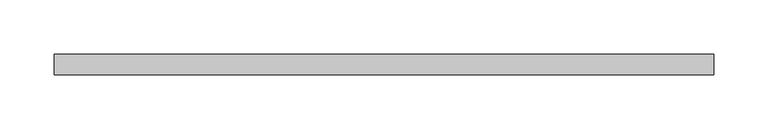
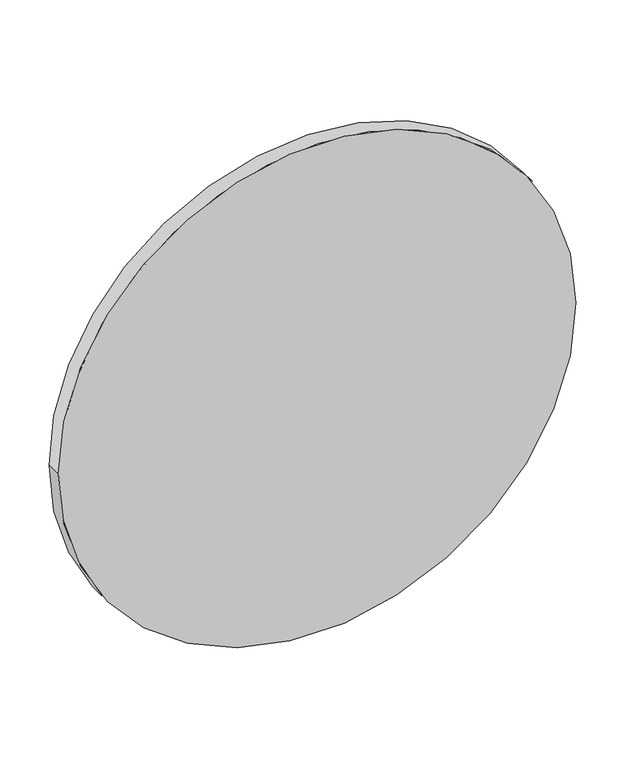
"""IFC4 building model written with IfcOpenShell, lengths in millimetres: proxy geometry, FOUNDATION^TABLE 1_ROUND-SUB TOP."""

import ifcopenshell
import ifcopenshell.guid

model = None  # the IFC model being written
_history = None  # IfcOwnerHistory: only IFC2X3 demands one
_inside = {}  # id of a spatial element -> (the spatial element, [elements in it])
_under = {}  # id of a project, library or spatial element -> (it, [spatial elements below it])
_declared = {}  # id of a project -> (the project, [libraries it declares])
_typed = {}  # id of a type object -> (the type object, [elements of that type])
_made_of = {}  # id of a material, layer set ... -> (it, [elements and type objects made of it])


def new_model(schema):
    """Start an empty IFC model of exactly this schema.

    Asked for "IFC4X3", IfcOpenShell would pick the latest addendum, in which some entities
    have other attributes; the version numbers below select the first issue.
    IFC2X3 requires an IfcOwnerHistory on every rooted entity: one is made here for all.
    """
    global model, _history
    if schema == "IFC4X3":
        model = ifcopenshell.file(schema_version=(4, 3, 0, 0))
    else:
        model = ifcopenshell.file(schema=schema)
    _inside.clear()
    _under.clear()
    _declared.clear()
    _typed.clear()
    _made_of.clear()
    _history = None
    if model.schema == "IFC2X3":
        org = make("IfcOrganization", Name="unknown")
        user = make(
            "IfcPersonAndOrganization",
            ThePerson=make("IfcPerson", FamilyName="unknown"),
            TheOrganization=org,
        )
        app = make(
            "IfcApplication",
            ApplicationDeveloper=org,
            Version="unknown",
            ApplicationFullName="unknown",
            ApplicationIdentifier="unknown",
        )
        _history = make(
            "IfcOwnerHistory",
            OwningUser=user,
            OwningApplication=app,
            ChangeAction="ADDED",
            CreationDate=0,
        )
    return model


def make(cls, **values):
    """One entity of the class cls with the attributes given. An attribute that is None is left unset."""
    return model.create_entity(
        cls, **{name: value for name, value in values.items() if value is not None}
    )


def rooted(cls, **values):
    """An entity with a GlobalId (a new one), such as an element, a storey or a relation."""
    return make(cls, GlobalId=ifcopenshell.guid.new(), OwnerHistory=_history, **values)


def si_unit(unit_type, name, prefix=None):
    """IfcSIUnit, for example si_unit("LENGTHUNIT", "METRE", prefix="MILLI")."""
    return make("IfcSIUnit", UnitType=unit_type, Prefix=prefix, Name=name)


def assignment(units):
    """IfcUnitAssignment: the units of a project."""
    return None if units is None else make("IfcUnitAssignment", Units=units)


def point(xyz):
    """IfcCartesianPoint."""
    return None if xyz is None else make("IfcCartesianPoint", Coordinates=xyz)


def direction(xyz):
    """IfcDirection."""
    return None if xyz is None else make("IfcDirection", DirectionRatios=xyz)


def frame(location, z_axis=None, x_axis=None):
    """IfcAxis2Placement3D, a coordinate frame: its origin and axes. An axis left out is left unset."""
    return make(
        "IfcAxis2Placement3D",
        Location=point(location),
        Axis=direction(z_axis),
        RefDirection=direction(x_axis),
    )


def frame_2d(location, x_axis=None):
    """IfcAxis2Placement2D, a coordinate frame in the plane: its origin and x axis."""
    return make(
        "IfcAxis2Placement2D", Location=point(location), RefDirection=direction(x_axis)
    )


def origin():
    """The frame at (0, 0, 0) with its axes left unset."""
    return frame((0.0, 0.0, 0.0))


def origin_2d():
    """The frame at (0, 0) in the plane with its x axis left unset."""
    return frame_2d((0.0, 0.0))


def place(relative_to, where):
    """IfcLocalPlacement: puts the frame where relative to a parent placement (None: the world)."""
    return make(
        "IfcLocalPlacement", PlacementRelTo=relative_to, RelativePlacement=where
    )


def context(
    kind, dimensions, precision=None, world=None, true_north=None, identifier=None
):
    """IfcGeometricRepresentationContext, for example the 3D "Model" context."""
    return make(
        "IfcGeometricRepresentationContext",
        ContextIdentifier=identifier,
        ContextType=kind,
        CoordinateSpaceDimension=dimensions,
        Precision=precision,
        WorldCoordinateSystem=world,
        TrueNorth=true_north,
    )


def project(units=None, contexts=None):
    """IfcProject with its units and contexts."""
    return rooted(
        "IfcProject",
        Name="project",
        RepresentationContexts=contexts,
        UnitsInContext=assignment(units),
    )


def spatial(cls, under=None, at=None, **own):
    """A site, building, storey or space (cls), placed at a placement, below another one or the project."""
    s = rooted(cls, ObjectPlacement=at, **own)
    if under is not None:
        _under.setdefault(under.id(), (under, []))[1].append(s)
    return s


def circle_curve(where, radius):
    """IfcCircle in the frame where."""
    return make("IfcCircle", Position=where, Radius=radius)


def trimmed(basis, trim1, trim2, sense, master):
    """IfcTrimmedCurve: the piece of a basis curve between two trims."""
    return make(
        "IfcTrimmedCurve",
        BasisCurve=basis,
        Trim1=trim1,
        Trim2=trim2,
        SenseAgreement=sense,
        MasterRepresentation=master,
    )


def segment(curve, same_sense, transition):
    """IfcCompositeCurveSegment."""
    return make(
        "IfcCompositeCurveSegment",
        Transition=transition,
        SameSense=same_sense,
        ParentCurve=curve,
    )


def composite_curve(segments, self_intersect=None):
    """IfcCompositeCurve: segments joined end to end."""
    return make("IfcCompositeCurve", Segments=segments, SelfIntersect=self_intersect)


def outline(outer, holes=None, kind="AREA"):
    """IfcArbitraryClosedProfileDef: a profile drawn as a closed curve; with holes, ...WithVoids."""
    if holes is None:
        return make("IfcArbitraryClosedProfileDef", ProfileType=kind, OuterCurve=outer)
    return make(
        "IfcArbitraryProfileDefWithVoids",
        ProfileType=kind,
        OuterCurve=outer,
        InnerCurves=holes,
    )


def extrude(swept, where, along, depth):
    """IfcExtrudedAreaSolid: the profile swept, set in the frame where, extruded along a direction by depth."""
    return make(
        "IfcExtrudedAreaSolid",
        SweptArea=swept,
        Position=where,
        ExtrudedDirection=direction(along),
        Depth=depth,
    )


def shape(context_of_items, identifier, shape_type, items):
    """IfcShapeRepresentation: the items that make up one representation, for example the "Body"."""
    return make(
        "IfcShapeRepresentation",
        ContextOfItems=context_of_items,
        RepresentationIdentifier=identifier,
        RepresentationType=shape_type,
        Items=items,
    )


def source(mapping_origin, context_of_items, identifier, shape_type, items):
    """IfcRepresentationMap: a shape defined once, which mapped items show again and again."""
    return make(
        "IfcRepresentationMap",
        MappingOrigin=mapping_origin,
        MappedRepresentation=shape(context_of_items, identifier, shape_type, items),
    )


def transform(
    local_origin,
    x_axis=None,
    y_axis=None,
    z_axis=None,
    scale=None,
    scale2=None,
    scale3=None,
    uniform=True,
):
    """IfcCartesianTransformationOperator3D, or its non-uniform kind. x_axis, y_axis, z_axis: its Axis1, 2, 3."""
    if uniform:
        return make(
            "IfcCartesianTransformationOperator3D",
            Axis1=direction(x_axis),
            Axis2=direction(y_axis),
            LocalOrigin=point(local_origin),
            Scale=scale,
            Axis3=direction(z_axis),
        )
    return make(
        "IfcCartesianTransformationOperator3DnonUniform",
        Axis1=direction(x_axis),
        Axis2=direction(y_axis),
        LocalOrigin=point(local_origin),
        Scale=scale,
        Axis3=direction(z_axis),
        Scale2=scale2,
        Scale3=scale3,
    )


def mapped(mapping_source, mapping_target):
    """IfcMappedItem: shows the shape of a source again, moved by a transform."""
    return make(
        "IfcMappedItem", MappingSource=mapping_source, MappingTarget=mapping_target
    )


def made_of(thing, what):
    """Note that an element or type object is made of a material, layer set ...; save() writes the relation."""
    if what is not None:
        _made_of.setdefault(what.id(), (what, []))[1].append(thing)
    return thing


def element(
    cls,
    number,
    at=None,
    inside=None,
    cuts=None,
    type_object=None,
    material=None,
    context=None,
    identifier="Body",
    shape_type=None,
    held_by="IfcProductDefinitionShape",
    body=None,
    shapes=None,
    **own,
):
    """One element of the class cls, such as IfcWall. Its Tag is "e" and its number.

    at: its placement. inside: the storey or other place that contains it. cuts: it is an
    opening in that element (IfcRelVoidsElement). A single representation is given by context,
    identifier, shape_type and body (its items); several are given by shapes. held_by: the class
    of the entity that holds the representations. save() writes the other relations.
    """
    e = rooted(cls, Tag="e%d" % number, ObjectPlacement=at, **own)
    if body is not None:
        shapes = [shape(context, identifier, shape_type, body)]
    if shapes is not None:
        e.Representation = make(held_by, Representations=shapes)
    if inside is not None:
        _inside.setdefault(inside.id(), (inside, []))[1].append(e)
    if cuts is not None:
        rooted(
            "IfcRelVoidsElement", RelatingBuildingElement=cuts, RelatedOpeningElement=e
        )
    if type_object is not None:
        _typed.setdefault(type_object.id(), (type_object, []))[1].append(e)
    return made_of(e, material)


def aggregate(whole, parts):
    """IfcRelAggregates: a whole, such as a stair, and the parts it consists of."""
    return rooted("IfcRelAggregates", RelatingObject=whole, RelatedObjects=parts)


def save(model, path):
    """Write the relations noted so far, then the file.

    IfcRelAggregates (storeys below a building ...), IfcRelContainedInSpatialStructure (elements
    in a storey), IfcRelDefinesByType, IfcRelAssociatesMaterial and IfcRelDeclares: one each for
    every whole, place, type object, material and project.
    """
    for whole, parts in _under.values():
        aggregate(whole, parts)
    for where, things in _inside.values():
        rooted(
            "IfcRelContainedInSpatialStructure",
            RelatedElements=things,
            RelatingStructure=where,
        )
    for kind, things in _typed.values():
        rooted("IfcRelDefinesByType", RelatedObjects=things, RelatingType=kind)
    for what, things in _made_of.values():
        rooted("IfcRelAssociatesMaterial", RelatedObjects=things, RelatingMaterial=what)
    for by, libraries in _declared.values():
        rooted("IfcRelDeclares", RelatingContext=by, RelatedDefinitions=libraries)
    model.write(path)


def generic_models_94c69031(model_context):
    return source(origin(), model_context, "Body", "SweptSolid", [
        extrude(outline(composite_curve([segment(trimmed(circle_curve(origin_2d(), 304.8), [point((0.0, 304.8))], [point((0.0, -304.8))], False, "CARTESIAN"), True, "CONTINUOUS"), segment(trimmed(circle_curve(origin_2d(), 304.8), [point((0.0, -304.8))], [point((0.0, 304.8))], False, "CARTESIAN"), True, "CONTINUOUS")], self_intersect=False)), frame((0.0, -19.05, 0.0), z_axis=(0.0, 1.0, 0.0), x_axis=(0.0, 0.0, 1.0)), (0.0, 0.0, 1.0), 19.05),
    ])


if __name__ == "__main__":
    model = new_model("IFC4")
    model_context = context("Model", 3, world=origin())
    ifc_project = project(units=[si_unit("LENGTHUNIT", "METRE", prefix="MILLI")], contexts=[model_context])
    site = spatial("IfcSite", under=ifc_project)
    building = spatial("IfcBuilding", under=site)
    placement = place(None, origin())
    generic_models_shape = generic_models_94c69031(model_context)
    element("IfcBuildingElementProxy", 1, Name="FOUNDATION^TABLE 1_ROUND-SUB TOP", ObjectType="FOUNDATION^TABLE 1_ROUND-SUB TOP", at=placement, inside=building, context=model_context, shape_type="MappedRepresentation", body=[
        mapped(generic_models_shape, transform((0.0, 0.0, 0.0), x_axis=(1.0, 0.0, 0.0), y_axis=(0.0, 1.0, 0.0), z_axis=(0.0, 0.0, 1.0))),
    ])
    save(model, "model.ifc")
